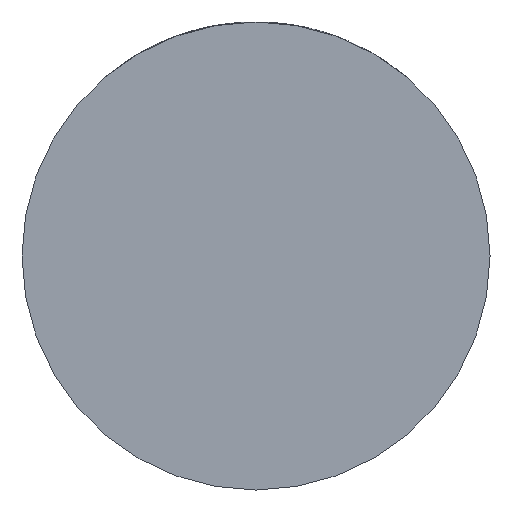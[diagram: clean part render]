
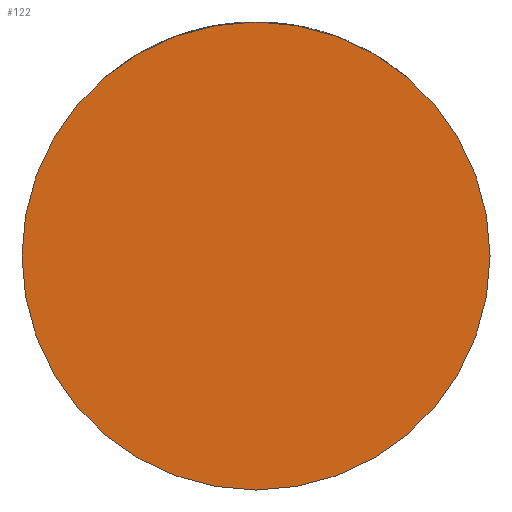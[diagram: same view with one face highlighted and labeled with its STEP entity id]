
A CAD part, front view. The second image highlights one B-rep face of the part: STEP entity #122.
In plain terms, the highlighted planar face has unit normal (0, -1, 0).
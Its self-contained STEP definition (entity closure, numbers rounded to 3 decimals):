
#122 = ADVANCED_FACE ( 'NONE', ( #476 ), #1886, .T. ) ;
#196 = ORIENTED_EDGE ( 'NONE', *, *, #2288, .T. ) ;
#476 = FACE_OUTER_BOUND ( 'NONE', #1167, .T. ) ;
#501 = DIRECTION ( 'NONE',  ( 1., 0., 0. ) ) ;
#645 = CARTESIAN_POINT ( 'NONE',  ( 0., -28., 0. ) ) ;
#792 = EDGE_CURVE ( 'NONE', #1902, #1109, #3082, .T. ) ;
#1109 = VERTEX_POINT ( 'NONE', #3223 ) ;
#1167 = EDGE_LOOP ( 'NONE', ( #3476, #196 ) ) ;
#1228 = DIRECTION ( 'NONE',  ( 0., -1., 0. ) ) ;
#1335 = CARTESIAN_POINT ( 'NONE',  ( -32., -28., 0. ) ) ;
#1886 = PLANE ( 'NONE',  #3761 ) ;
#1902 = VERTEX_POINT ( 'NONE', #1335 ) ;
#2043 = AXIS2_PLACEMENT_3D ( 'NONE', #645, #2323, #2758 ) ;
#2200 = CARTESIAN_POINT ( 'NONE',  ( 0., -28., 0. ) ) ;
#2288 = EDGE_CURVE ( 'NONE', #1109, #1902, #4160, .T. ) ;
#2323 = DIRECTION ( 'NONE',  ( 0., -1., 0. ) ) ;
#2711 = AXIS2_PLACEMENT_3D ( 'NONE', #3827, #3806, #3456 ) ;
#2758 = DIRECTION ( 'NONE',  ( 1., 0., 0. ) ) ;
#3082 = CIRCLE ( 'NONE', #2711, 32. ) ;
#3223 = CARTESIAN_POINT ( 'NONE',  ( 32., -28., 0. ) ) ;
#3456 = DIRECTION ( 'NONE',  ( 1., 0., 0. ) ) ;
#3476 = ORIENTED_EDGE ( 'NONE', *, *, #792, .T. ) ;
#3761 = AXIS2_PLACEMENT_3D ( 'NONE', #2200, #1228, #501 ) ;
#3806 = DIRECTION ( 'NONE',  ( 0., -1., 0. ) ) ;
#3827 = CARTESIAN_POINT ( 'NONE',  ( 0., -28., 0. ) ) ;
#4160 = CIRCLE ( 'NONE', #2043, 32. ) ;
